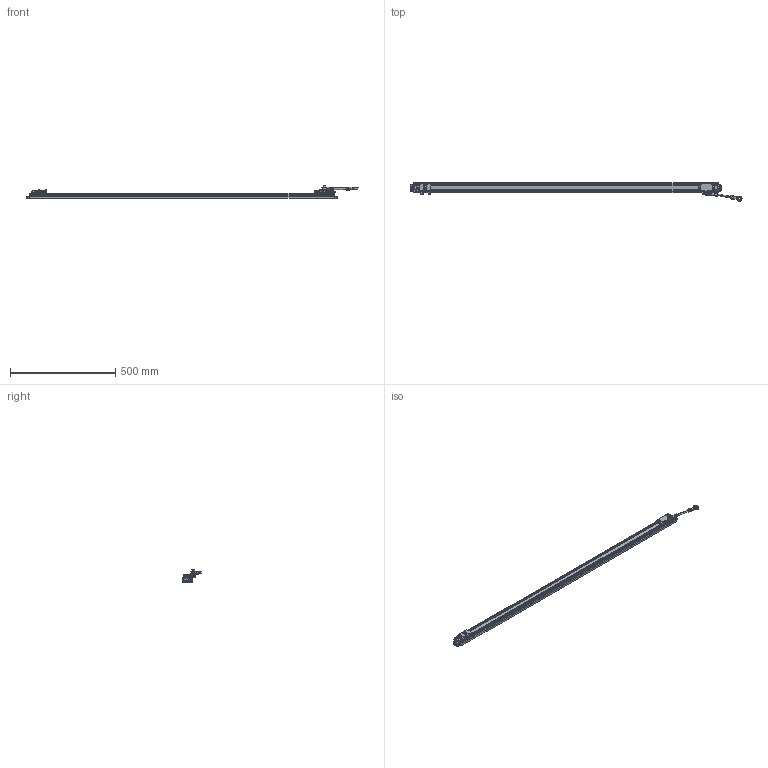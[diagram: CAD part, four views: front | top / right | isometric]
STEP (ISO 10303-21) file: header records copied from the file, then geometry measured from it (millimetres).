
FILE_DESCRIPTION(('Creo Elements/Direct Modeling STEP Export'),'2;1');
FILE_NAME('SERIE_PB-1340.stp','2021-01-11T15:08:26',(''),(''),'Creo Elements/Direct Modeling STEP processor for AP214 (Solid Model)','Creo Elements/Direct Modeling 19.0G 27-Nov-2017 (C) Parametric Technology GmbH','');
FILE_SCHEMA(('AUTOMOTIVE_DESIGN { 1 0 10303 214 1 1 1 1 }'));
Length unit declared in the file: millimetre
Products named in the file (15): SCALE_BLOCK_1; SCALE_BLOCK_2; IO; SCALE_BODY_1340; SCALE_PB_1340; READING_HEAD_BODY; BLOCK; COUPLING_BAR; COUPLING_BAR_BLOCK; READING_HEAD; READING_HEAD_BODY.1.1; BLOCK.1; COUPLING_BAR_BLOCK.1.1; READING_HEAD.1; PB_1340
Assembly tree (16 placements, depth 4):
  PB_1340
    READING_HEAD.1
      COUPLING_BAR_BLOCK.1.1  x2
        BLOCK.1
      READING_HEAD_BODY.1.1  x2
    READING_HEAD
      COUPLING_BAR_BLOCK
        COUPLING_BAR
        BLOCK
      READING_HEAD_BODY
    SCALE_PB_1340
      SCALE_BODY_1340
      IO
      SCALE_BLOCK_2
      SCALE_BLOCK_1
Bounding box: 1580.72 x 87.83 x 59.41 mm (x, y, z)
Volume: 1544061.3 mm3; surface area: 284188.9 mm2
Topology: 13 solids, 17 shells, 2778 faces, 7173 edges, 4419 vertices
Faces by surface type: plane 1149, cylinder 1013, bspline 318, torus 104, cone 100, sphere 85, extrusion 9
Entity records: 111595 total; most frequent: CARTESIAN_POINT 52811, ORIENTED_EDGE 12110, DIRECTION 10166, EDGE_CURVE 6047, VERTEX_POINT 3798, VECTOR 3396, LINE 3387, AXIS2_PLACEMENT_3D 3385
